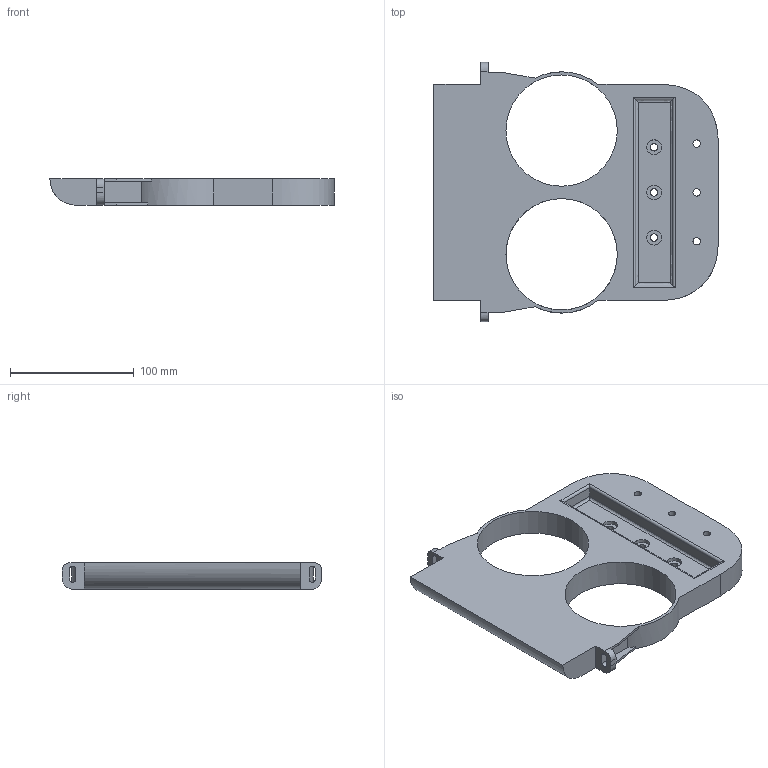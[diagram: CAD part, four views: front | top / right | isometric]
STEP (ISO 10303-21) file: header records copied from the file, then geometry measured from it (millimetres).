
FILE_DESCRIPTION(/* description */ ('STEP AP242','CAx-IF Rec.Pracs.---Representation and Presentation of Product Manufacturing Information (PMI)---4.0---2014-10-13','CAx-IF Rec.Pracs.---3D Tessellated Geometry---0.4---2014-09-14','2;1'),/* implementation_level */ '2;1');
FILE_NAME(/* name */ '67da2bd304a47c4a59a7af4e',/* time_stamp */ '2025-03-19T02:28:35Z',/* author */ (''),/* organization */ (''),/* preprocessor_version */ 'ST-DEVELOPER v20',/* originating_system */ 'ONSHAPE BY PTC INC, 1.195',/* authorisation */ ' ');
FILE_SCHEMA (('AP242_MANAGED_MODEL_BASED_3D_ENGINEERING_MIM_LF { 1 0 10303 442 1 1 4 }'));
Length unit declared in the file: metre
Products named in the file (1): Part 1
Bounding box: 229.93 x 209.56 x 21.5 mm (x, y, z)
Volume: 518458.2 mm3; surface area: 91425.1 mm2
Topology: 1 solids, 1 shells, 73 faces, 192 edges, 125 vertices
Faces by surface type: plane 40, cylinder 18, bspline 15
Full cylindrical faces by diameter (mm): 6 x6, 12 x3, 90 x2
Entity records: 3056 total; most frequent: CARTESIAN_POINT 1356, ORIENTED_EDGE 360, DIRECTION 283, EDGE_CURVE 180, VERTEX_POINT 124, EDGE_LOOP 108, FACE_BOUND 108, AXIS2_PLACEMENT_3D 98
